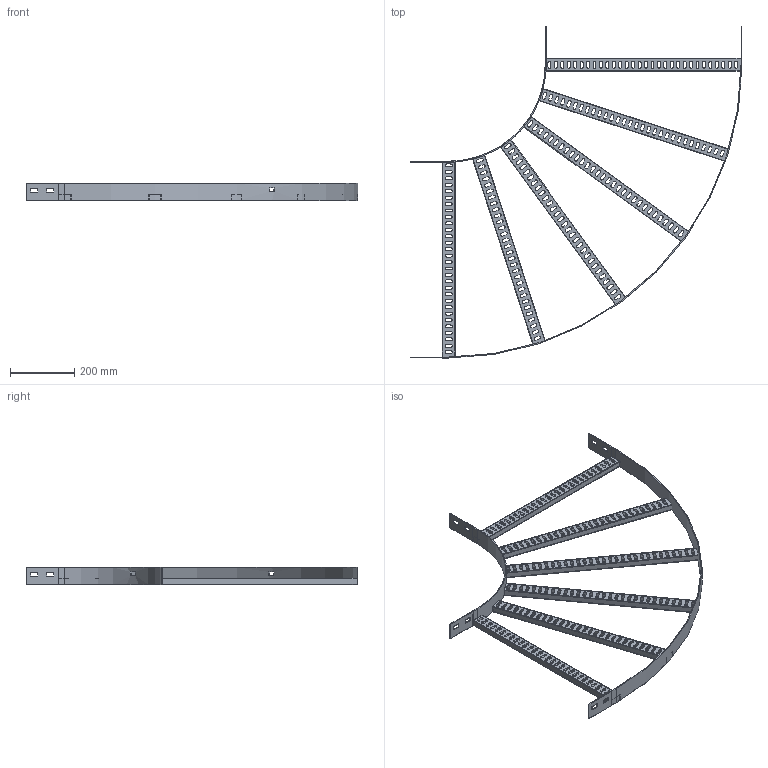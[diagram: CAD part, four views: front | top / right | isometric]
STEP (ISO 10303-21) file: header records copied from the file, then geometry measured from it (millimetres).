
FILE_DESCRIPTION(/* description */ ('','CAx-IF Rec.Pracs.---Representation and Presentation of Product Manufacturing Information (PMI)---4.0---2014-10-13'),/* implementation_level */ '2;1');
FILE_NAME(/* name */ 'Eurostrut_EFB60-600-90-300_Bend 90 for Cable Ladder ECL.step',/* time_stamp */ '2026-09-03T08:42:35+02:00',/* author */ (''),/* organization */ (''),/* preprocessor_version */ 'ST-DEVELOPER v20.1',/* originating_system */ 'Autodesk Revit 2027 27.2.0.39',/* authorisation */ '');
FILE_SCHEMA (('AP242_MANAGED_MODEL_BASED_3D_ENGINEERING_MIM_LF { 1 0 10303 442 2 1 4 }'));
Length unit declared in the file: millimetre
Products named in the file (6): TopLevelAssembly; Sweep; Extrusion; Extrusion_1; Eurostrut_Cable Ladder_Rung_Horizontal Bend_With slots; Eurostrut_Cable Ladder_Accessory End_54-94-142
Assembly tree (8 placements, depth 2):
  TopLevelAssembly
    Sweep
    Extrusion
    Extrusion_1
    Eurostrut_Cable Ladder_Rung_Horizontal Bend_With slots
    Eurostrut_Cable Ladder_Accessory End_54-94-142  x4
Bounding box: 1031 x 1031 x 54 mm (x, y, z)
Volume: 823296.9 mm3; surface area: 892375.2 mm2
Topology: 16 solids, 16 shells, 928 faces, 2688 edges, 1792 vertices
Faces by surface type: plane 540, bspline 360, cylinder 28
Entity records: 40380 total; most frequent: CARTESIAN_POINT 16360, ORIENTED_EDGE 5160, DIRECTION 4444, EDGE_CURVE 2580, LINE 1796, VECTOR 1796, VERTEX_POINT 1720, AXIS2_PLACEMENT_3D 1324
